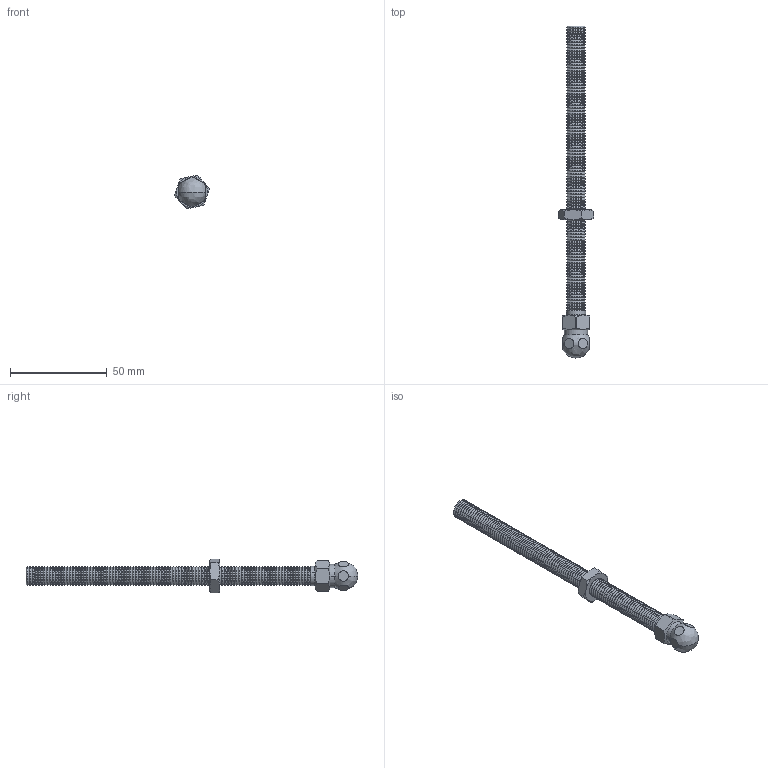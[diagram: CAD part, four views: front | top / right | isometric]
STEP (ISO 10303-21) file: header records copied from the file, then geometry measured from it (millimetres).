
FILE_DESCRIPTION (( 'STEP AP203' ), '1' );
FILE_NAME ('501397_Gewindestange mit Kugel M10x150.step', '2024-06-26T12:52:09', ( '' ), ( '' ), 'SwSTEP 2.0', 'SolidWorks 2021', '' );
FILE_SCHEMA (( 'CONFIG_CONTROL_DESIGN' ));
Length unit declared in the file: millimetre
Products named in the file (1): 501397_Gewindestange mit Kugel M10x150
Bounding box: 18.1 x 171.52 x 17.53 mm (x, y, z)
Volume: 14181.7 mm3; surface area: 9451.7 mm2
Topology: 7 solids, 7 shells, 691 faces, 1791 edges, 1118 vertices
Faces by surface type: cone 438, cylinder 218, plane 31, bspline 2, torus 2
Entity records: 21907 total; most frequent: DIRECTION 4202, CARTESIAN_POINT 4127, ORIENTED_EDGE 3582, EDGE_CURVE 1791, AXIS2_PLACEMENT_3D 1773, VERTEX_POINT 1118, CIRCLE 1083, EDGE_LOOP 697
